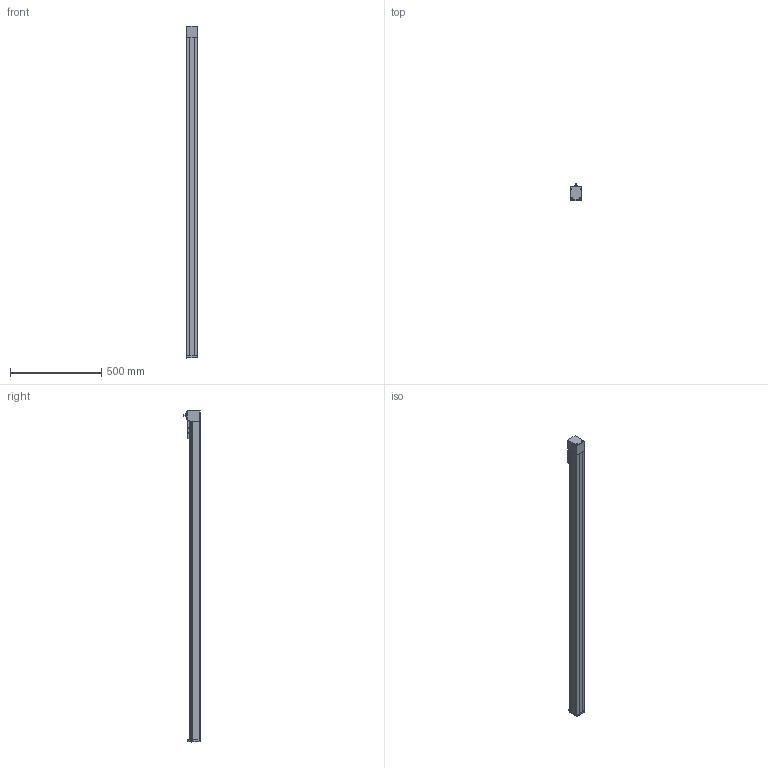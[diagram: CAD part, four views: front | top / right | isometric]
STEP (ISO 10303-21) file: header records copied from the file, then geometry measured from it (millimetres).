
FILE_DESCRIPTION(/* description */ ('STEP AP214'),/* implementation_level */ '2;1');
FILE_NAME(/* name */ 'MGTB 60 1600(0)',/* time_stamp */ '2023-04-17T13:41:54+02:00',/* author */ ('License CC BY-ND 4.0'),/* organization */ ('CADENAS'),/* preprocessor_version */ 'ST-DEVELOPER v19.3',/* originating_system */ 'PARTsolutions',/* authorisation */ ' ');
FILE_SCHEMA (('AUTOMOTIVE_DESIGN {1 0 10303 214 3 1 1}'));
Length unit declared in the file: millimetre
Products named in the file (6): MGTB 60 1600(0); MGTB 60 1600_protection_strip; MGTB 60_carriage; MGTB 60_end_block; MGTB 60 1600_profile; MGTB 60_drive_block
Assembly tree (5 placements, depth 2):
  MGTB 60 1600(0)
    MGTB 60 1600_protection_strip
    MGTB 60_carriage
    MGTB 60_end_block
    MGTB 60 1600_profile
    MGTB 60_drive_block
Bounding box: 60 x 92.5 x 1815.01 mm (x, y, z)
Volume: 6323273.2 mm3; surface area: 729809.2 mm2
Topology: 5 solids, 5 shells, 696 faces, 1771 edges, 1140 vertices
Faces by surface type: plane 351, cylinder 156, cone 94, bspline 68, torus 25, sphere 2
Full cylindrical faces by diameter (mm): 2 x1, 2.459 x4, 3.242 x6, 4 x12, 4.134 x8, 4.2 x2, 4.8 x2, 5 x2, 5.5 x4, 7 x6, 8 x4, 10 x1, 11 x3, 16 x1, 17 x1, 30 x1, 35 x1, 42 x2
Entity records: 25037 total; most frequent: CARTESIAN_POINT 4184, DIRECTION 3411, ORIENTED_EDGE 3232, EDGE_CURVE 1616, AXIS2_PLACEMENT_3D 1219, VERTEX_POINT 1120, LINE 973, VECTOR 973
